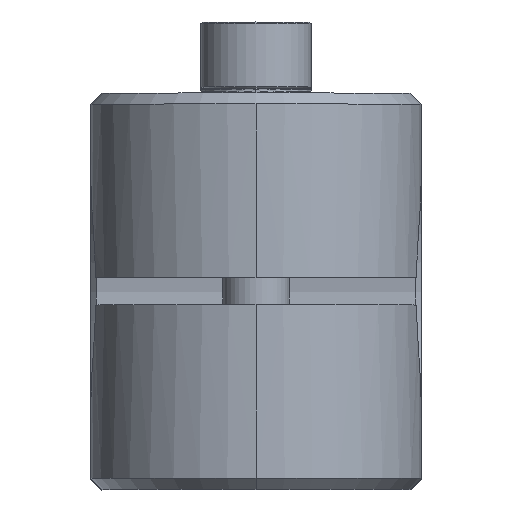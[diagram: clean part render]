
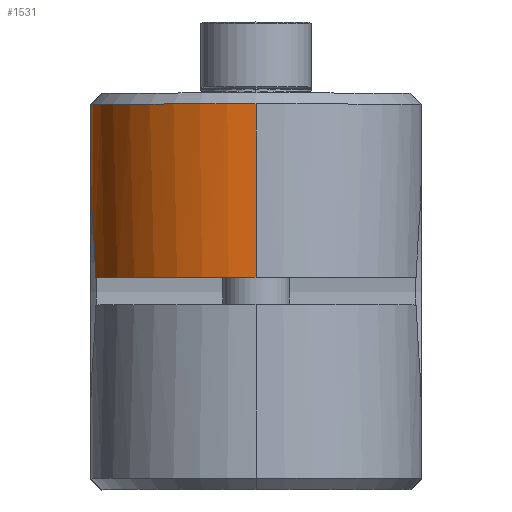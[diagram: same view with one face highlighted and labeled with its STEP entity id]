
A CAD part, top view. The second image highlights one B-rep face of the part: STEP entity #1531.
In plain terms, the highlighted cylindrical face has radius 15 mm (diameter 30 mm), a partial arc.
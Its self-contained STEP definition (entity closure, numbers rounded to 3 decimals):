
#314 = ORIENTED_EDGE ( 'NONE', *, *, #7001, .T. ) ;
#320 = FACE_OUTER_BOUND ( 'NONE', #8678, .T. ) ;
#370 = CYLINDRICAL_SURFACE ( 'NONE', #6712, 15. ) ;
#616 = CARTESIAN_POINT ( 'NONE',  ( 16.103, 12.59, -8.573 ) ) ;
#720 = CARTESIAN_POINT ( 'NONE',  ( 13.696, 12.948, -2.814 ) ) ;
#755 = CARTESIAN_POINT ( 'NONE',  ( 17.071, 27.564, -17. ) ) ;
#806 = VECTOR ( 'NONE', #9328, 1000. ) ;
#881 = ORIENTED_EDGE ( 'NONE', *, *, #1190, .F. ) ;
#1005 = CIRCLE ( 'NONE', #2229, 15. ) ;
#1190 = EDGE_CURVE ( 'NONE', #7176, #4366, #4727, .T. ) ;
#1238 = CARTESIAN_POINT ( 'NONE',  ( 14.317, 12.816, -5.087 ) ) ;
#1239 = VERTEX_POINT ( 'NONE', #3597 ) ;
#1291 = CARTESIAN_POINT ( 'NONE',  ( 17.071, 12.564, -9.811 ) ) ;
#1386 = CARTESIAN_POINT ( 'NONE',  ( 14.07, 12.866, -4.338 ) ) ;
#1531 = ADVANCED_FACE ( 'NONE', ( #320 ), #370, .T. ) ;
#1623 = CARTESIAN_POINT ( 'NONE',  ( 2.071, 27.564, -17. ) ) ;
#2059 = EDGE_CURVE ( 'NONE', #3613, #4366, #7068, .T. ) ;
#2229 = AXIS2_PLACEMENT_3D ( 'NONE', #8721, #8667, #3423 ) ;
#2352 = AXIS2_PLACEMENT_3D ( 'NONE', #755, #3820, #2918 ) ;
#2577 = DIRECTION ( 'NONE',  ( 0., 0., -1. ) ) ;
#2918 = DIRECTION ( 'NONE',  ( -1., 0., 0. ) ) ;
#2972 = CIRCLE ( 'NONE', #2352, 15. ) ;
#3411 = CARTESIAN_POINT ( 'NONE',  ( 17.071, 12.564, 0. ) ) ;
#3423 = DIRECTION ( 'NONE',  ( -1., 0., 0. ) ) ;
#3541 = CARTESIAN_POINT ( 'NONE',  ( 16.562, 12.564, -9.209 ) ) ;
#3597 = CARTESIAN_POINT ( 'NONE',  ( 2.071, 27.564, -1.25 ) ) ;
#3613 = VERTEX_POINT ( 'NONE', #8823 ) ;
#3820 = DIRECTION ( 'NONE',  ( 0., 0., -1. ) ) ;
#4264 = CARTESIAN_POINT ( 'NONE',  ( 14.923, 12.716, -6.534 ) ) ;
#4290 = CARTESIAN_POINT ( 'NONE',  ( 13.503, 12.995, -1.25 ) ) ;
#4366 = VERTEX_POINT ( 'NONE', #4797 ) ;
#4727 = B_SPLINE_CURVE_WITH_KNOTS ( 'NONE', 3,
 ( #7869, #5660, #720, #1386, #1238, #4264, #9357, #616, #3541, #1291 ),
 .UNSPECIFIED., .F., .F.,
 ( 4, 2, 2, 2, 4 ),
 ( 0., 0.002, 0.005, 0.007, 0.009 ),
 .UNSPECIFIED. ) ;
#4781 = DIRECTION ( 'NONE',  ( -1., 0., 0. ) ) ;
#4797 = CARTESIAN_POINT ( 'NONE',  ( 17.071, 12.564, -9.811 ) ) ;
#4946 = EDGE_CURVE ( 'NONE', #3613, #8110, #2972, .T. ) ;
#4991 = ORIENTED_EDGE ( 'NONE', *, *, #4946, .F. ) ;
#5660 = CARTESIAN_POINT ( 'NONE',  ( 13.569, 12.979, -2.035 ) ) ;
#6544 = LINE ( 'NONE', #8030, #8596 ) ;
#6712 = AXIS2_PLACEMENT_3D ( 'NONE', #9160, #2577, #4781 ) ;
#6759 = ORIENTED_EDGE ( 'NONE', *, *, #8385, .F. ) ;
#7001 = EDGE_CURVE ( 'NONE', #1239, #8110, #6544, .T. ) ;
#7068 = LINE ( 'NONE', #3411, #806 ) ;
#7176 = VERTEX_POINT ( 'NONE', #4290 ) ;
#7321 = DIRECTION ( 'NONE',  ( 0., 0., -1. ) ) ;
#7869 = CARTESIAN_POINT ( 'NONE',  ( 13.503, 12.995, -1.25 ) ) ;
#8030 = CARTESIAN_POINT ( 'NONE',  ( 2.071, 27.564, -1.25 ) ) ;
#8110 = VERTEX_POINT ( 'NONE', #1623 ) ;
#8385 = EDGE_CURVE ( 'NONE', #1239, #7176, #1005, .T. ) ;
#8596 = VECTOR ( 'NONE', #7321, 1000. ) ;
#8667 = DIRECTION ( 'NONE',  ( 0., 0., 1. ) ) ;
#8678 = EDGE_LOOP ( 'NONE', ( #6759, #314, #4991, #9379, #881 ) ) ;
#8721 = CARTESIAN_POINT ( 'NONE',  ( 17.071, 27.564, -1.25 ) ) ;
#8823 = CARTESIAN_POINT ( 'NONE',  ( 17.071, 12.564, -17. ) ) ;
#9160 = CARTESIAN_POINT ( 'NONE',  ( 17.071, 27.564, -1.25 ) ) ;
#9328 = DIRECTION ( 'NONE',  ( 0., 0., 1. ) ) ;
#9357 = CARTESIAN_POINT ( 'NONE',  ( 15.281, 12.666, -7.234 ) ) ;
#9379 = ORIENTED_EDGE ( 'NONE', *, *, #2059, .T. ) ;
